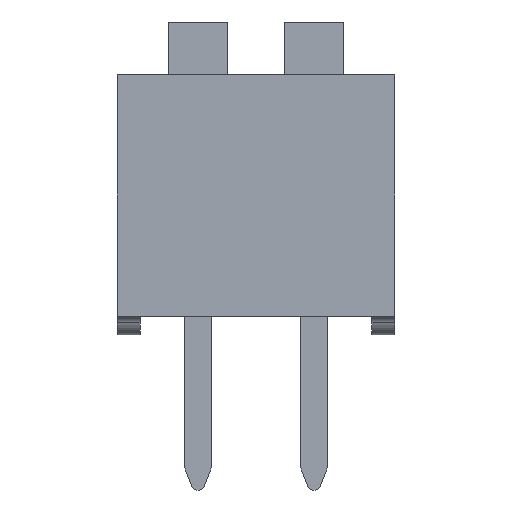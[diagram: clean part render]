
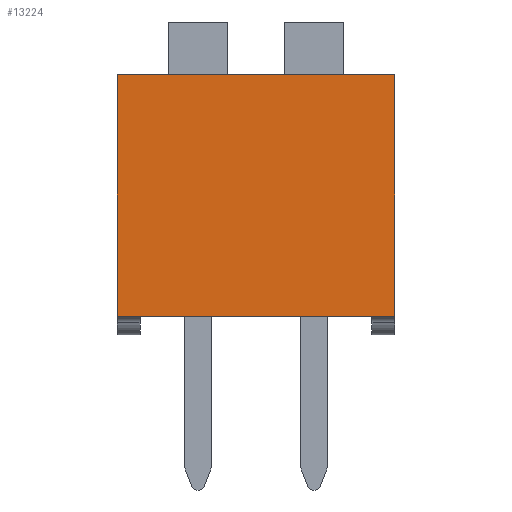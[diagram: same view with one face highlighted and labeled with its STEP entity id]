
A CAD part, front view. The second image highlights one B-rep face of the part: STEP entity #13224.
In plain terms, the highlighted planar face has unit normal (0, -1, 0).
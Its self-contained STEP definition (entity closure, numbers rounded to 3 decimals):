
#6162 = PLANE('',#6163);
#6163 = AXIS2_PLACEMENT_3D('',#6164,#6165,#6166);
#6164 = CARTESIAN_POINT('',(-1.77,8.76,0.4));
#6165 = DIRECTION('',(-1.,0.,0.));
#6166 = DIRECTION('',(0.,-1.,0.));
#6309 = VERTEX_POINT('',#6310);
#6310 = CARTESIAN_POINT('',(-1.77,-1.14,0.4));
#6324 = PLANE('',#6325);
#6325 = AXIS2_PLACEMENT_3D('',#6326,#6327,#6328);
#6326 = CARTESIAN_POINT('',(1.27,3.81,0.4));
#6327 = DIRECTION('',(0.,0.,1.));
#6328 = DIRECTION('',(1.,0.,0.));
#6336 = EDGE_CURVE('',#6309,#6337,#6339,.T.);
#6337 = VERTEX_POINT('',#6338);
#6338 = CARTESIAN_POINT('',(-1.77,-1.14,5.7));
#6339 = SURFACE_CURVE('',#6340,(#6344,#6351),.PCURVE_S1.);
#6340 = LINE('',#6341,#6342);
#6341 = CARTESIAN_POINT('',(-1.77,-1.14,0.4));
#6342 = VECTOR('',#6343,1.);
#6343 = DIRECTION('',(0.,0.,1.));
#6344 = PCURVE('',#6162,#6345);
#6345 = DEFINITIONAL_REPRESENTATION('',(#6346),#6350);
#6346 = LINE('',#6347,#6348);
#6347 = CARTESIAN_POINT('',(9.9,0.));
#6348 = VECTOR('',#6349,1.);
#6349 = DIRECTION('',(0.,1.));
#6350 = ( GEOMETRIC_REPRESENTATION_CONTEXT(2) 
PARAMETRIC_REPRESENTATION_CONTEXT() REPRESENTATION_CONTEXT('2D SPACE',''
  ) );
#6351 = PCURVE('',#6352,#6357);
#6352 = PLANE('',#6353);
#6353 = AXIS2_PLACEMENT_3D('',#6354,#6355,#6356);
#6354 = CARTESIAN_POINT('',(-1.77,-1.14,0.4));
#6355 = DIRECTION('',(0.,-1.,0.));
#6356 = DIRECTION('',(1.,0.,0.));
#6357 = DEFINITIONAL_REPRESENTATION('',(#6358),#6362);
#6358 = LINE('',#6359,#6360);
#6359 = CARTESIAN_POINT('',(0.,0.));
#6360 = VECTOR('',#6361,1.);
#6361 = DIRECTION('',(0.,1.));
#6362 = ( GEOMETRIC_REPRESENTATION_CONTEXT(2) 
PARAMETRIC_REPRESENTATION_CONTEXT() REPRESENTATION_CONTEXT('2D SPACE',''
  ) );
#6380 = PLANE('',#6381);
#6381 = AXIS2_PLACEMENT_3D('',#6382,#6383,#6384);
#6382 = CARTESIAN_POINT('',(1.27,3.81,5.7));
#6383 = DIRECTION('',(0.,0.,1.));
#6384 = DIRECTION('',(1.,0.,0.));
#7294 = EDGE_CURVE('',#6337,#7295,#7297,.T.);
#7295 = VERTEX_POINT('',#7296);
#7296 = CARTESIAN_POINT('',(4.31,-1.14,5.7));
#7297 = SURFACE_CURVE('',#7298,(#7302,#7309),.PCURVE_S1.);
#7298 = LINE('',#7299,#7300);
#7299 = CARTESIAN_POINT('',(4.31,-1.14,5.7));
#7300 = VECTOR('',#7301,1.);
#7301 = DIRECTION('',(1.,0.,0.));
#7302 = PCURVE('',#6380,#7303);
#7303 = DEFINITIONAL_REPRESENTATION('',(#7304),#7308);
#7304 = LINE('',#7305,#7306);
#7305 = CARTESIAN_POINT('',(3.04,-4.95));
#7306 = VECTOR('',#7307,1.);
#7307 = DIRECTION('',(1.,0.));
#7308 = ( GEOMETRIC_REPRESENTATION_CONTEXT(2) 
PARAMETRIC_REPRESENTATION_CONTEXT() REPRESENTATION_CONTEXT('2D SPACE',''
  ) );
#7309 = PCURVE('',#6352,#7310);
#7310 = DEFINITIONAL_REPRESENTATION('',(#7311),#7315);
#7311 = LINE('',#7312,#7313);
#7312 = CARTESIAN_POINT('',(6.08,5.3));
#7313 = VECTOR('',#7314,1.);
#7314 = DIRECTION('',(1.,0.));
#7315 = ( GEOMETRIC_REPRESENTATION_CONTEXT(2) 
PARAMETRIC_REPRESENTATION_CONTEXT() REPRESENTATION_CONTEXT('2D SPACE',''
  ) );
#7333 = PLANE('',#7334);
#7334 = AXIS2_PLACEMENT_3D('',#7335,#7336,#7337);
#7335 = CARTESIAN_POINT('',(4.31,-1.14,0.4));
#7336 = DIRECTION('',(1.,0.,0.));
#7337 = DIRECTION('',(0.,1.,0.));
#10940 = VERTEX_POINT('',#10941);
#10941 = CARTESIAN_POINT('',(4.31,-1.14,0.4));
#10962 = EDGE_CURVE('',#10940,#6309,#10963,.T.);
#10963 = SURFACE_CURVE('',#10964,(#10968,#10975),.PCURVE_S1.);
#10964 = LINE('',#10965,#10966);
#10965 = CARTESIAN_POINT('',(4.31,-1.14,0.4));
#10966 = VECTOR('',#10967,1.);
#10967 = DIRECTION('',(-1.,0.,0.));
#10968 = PCURVE('',#6324,#10969);
#10969 = DEFINITIONAL_REPRESENTATION('',(#10970),#10974);
#10970 = LINE('',#10971,#10972);
#10971 = CARTESIAN_POINT('',(3.04,-4.95));
#10972 = VECTOR('',#10973,1.);
#10973 = DIRECTION('',(-1.,0.));
#10974 = ( GEOMETRIC_REPRESENTATION_CONTEXT(2) 
PARAMETRIC_REPRESENTATION_CONTEXT() REPRESENTATION_CONTEXT('2D SPACE',''
  ) );
#10975 = PCURVE('',#6352,#10976);
#10976 = DEFINITIONAL_REPRESENTATION('',(#10977),#10981);
#10977 = LINE('',#10978,#10979);
#10978 = CARTESIAN_POINT('',(6.08,0.));
#10979 = VECTOR('',#10980,1.);
#10980 = DIRECTION('',(-1.,0.));
#10981 = ( GEOMETRIC_REPRESENTATION_CONTEXT(2) 
PARAMETRIC_REPRESENTATION_CONTEXT() REPRESENTATION_CONTEXT('2D SPACE',''
  ) );
#13190 = EDGE_CURVE('',#10940,#7295,#13191,.T.);
#13191 = SURFACE_CURVE('',#13192,(#13196,#13203),.PCURVE_S1.);
#13192 = LINE('',#13193,#13194);
#13193 = CARTESIAN_POINT('',(4.31,-1.14,0.4));
#13194 = VECTOR('',#13195,1.);
#13195 = DIRECTION('',(0.,0.,1.));
#13196 = PCURVE('',#7333,#13197);
#13197 = DEFINITIONAL_REPRESENTATION('',(#13198),#13202);
#13198 = LINE('',#13199,#13200);
#13199 = CARTESIAN_POINT('',(0.,0.));
#13200 = VECTOR('',#13201,1.);
#13201 = DIRECTION('',(0.,1.));
#13202 = ( GEOMETRIC_REPRESENTATION_CONTEXT(2) 
PARAMETRIC_REPRESENTATION_CONTEXT() REPRESENTATION_CONTEXT('2D SPACE',''
  ) );
#13203 = PCURVE('',#6352,#13204);
#13204 = DEFINITIONAL_REPRESENTATION('',(#13205),#13209);
#13205 = LINE('',#13206,#13207);
#13206 = CARTESIAN_POINT('',(6.08,0.));
#13207 = VECTOR('',#13208,1.);
#13208 = DIRECTION('',(0.,1.));
#13209 = ( GEOMETRIC_REPRESENTATION_CONTEXT(2) 
PARAMETRIC_REPRESENTATION_CONTEXT() REPRESENTATION_CONTEXT('2D SPACE',''
  ) );
#13224 = ADVANCED_FACE('',(#13225),#6352,.T.);
#13225 = FACE_BOUND('',#13226,.T.);
#13226 = EDGE_LOOP('',(#13227,#13228,#13229,#13230));
#13227 = ORIENTED_EDGE('',*,*,#10962,.F.);
#13228 = ORIENTED_EDGE('',*,*,#13190,.T.);
#13229 = ORIENTED_EDGE('',*,*,#7294,.F.);
#13230 = ORIENTED_EDGE('',*,*,#6336,.F.);
